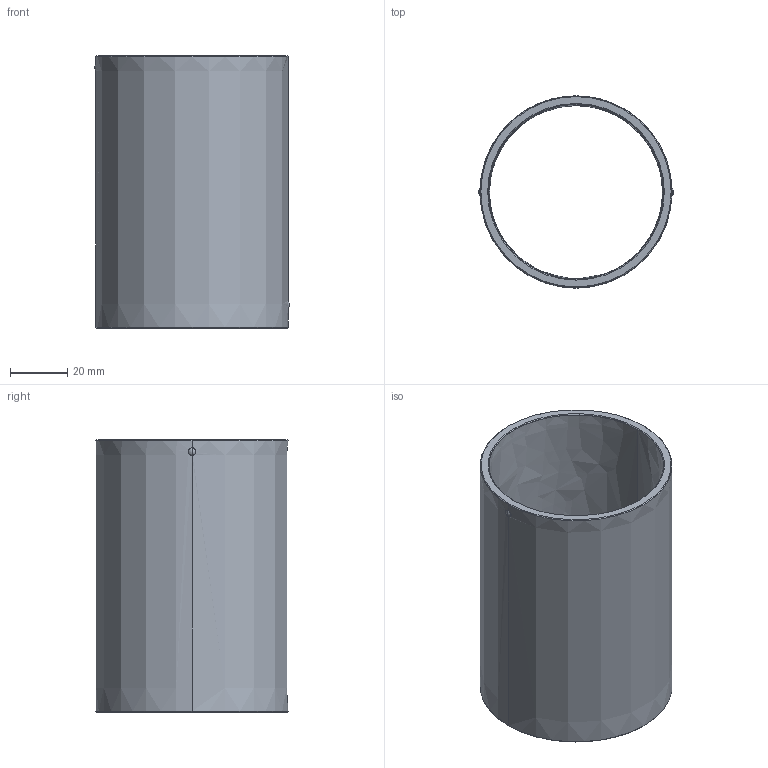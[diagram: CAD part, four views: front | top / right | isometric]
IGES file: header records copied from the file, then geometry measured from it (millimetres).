
Start section: START RECORD GO HERE.
Global section: file name: 730-60x95.igs; native system: DASSAULT SYSTEMES CATIA V5 R20 - www.3ds.com; preprocessor: CATIA Version 5 Release 20 ; author: Utente; organization: NB04-ASUS; date: 20210107.170503; units: millimetre
Bounding box: 67.99 x 67 x 95 mm (x, y, z)
Surface area: 39950.6 mm2 (no closed solid volume)
Topology: 0 solids, 0 shells, 44 faces, 242 edges, 240 vertices
Faces by surface type: revolution 36, plane 8
